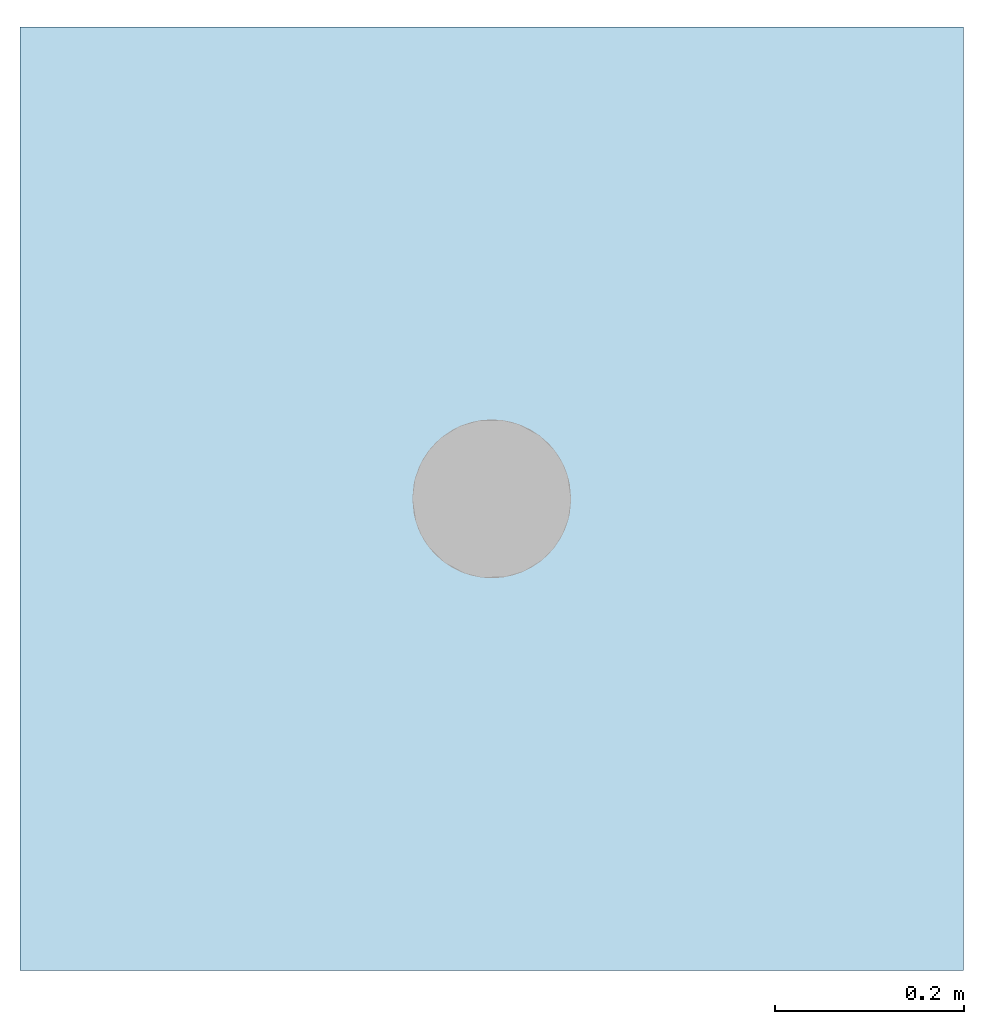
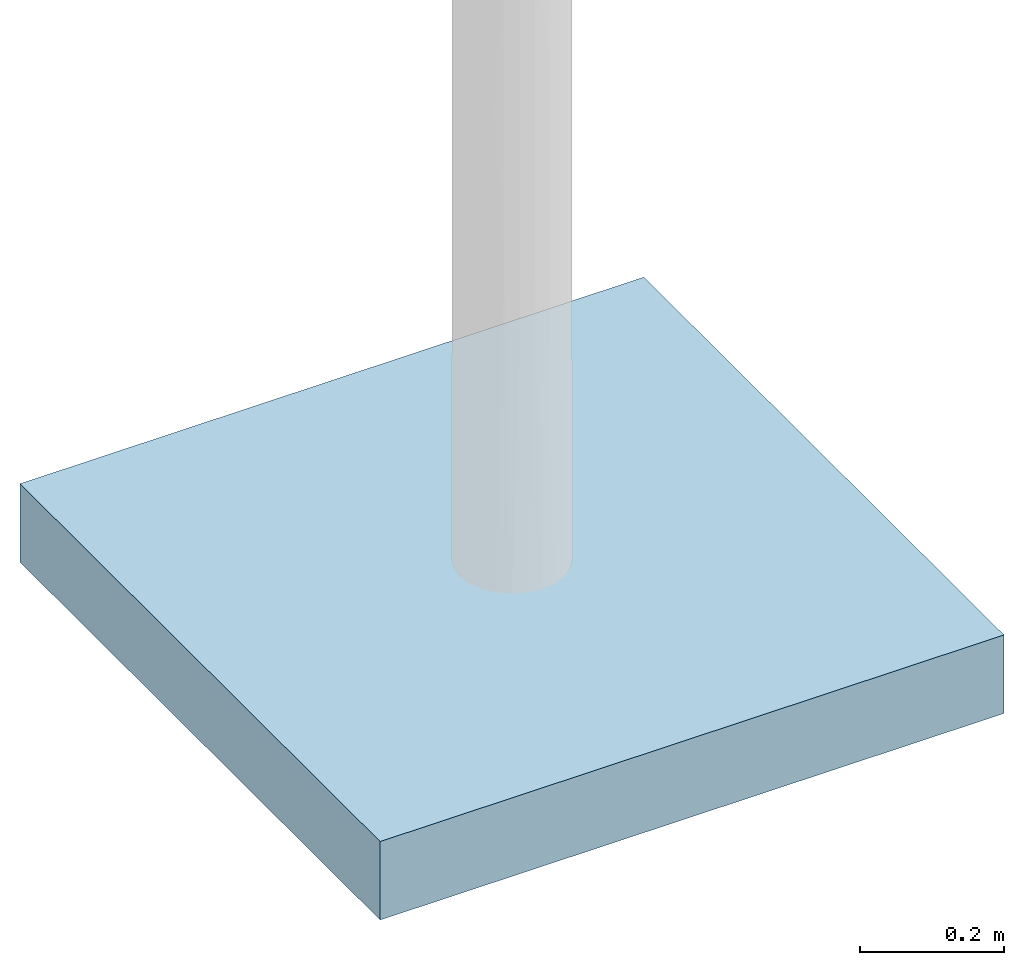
# One storey, incomplete: 1 slab.
"""IFC4 building model written with IfcOpenShell, lengths in metres."""

from ifc_helpers import new_model, entity, si_unit, converted_unit, direction, frame, frame_2d, origin, place, context, subcontext, project, spatial, rectangle, extrude, material, type_object, element, save


model = new_model("IFC4")

# Units and contexts
model_context = context("Model", 3, precision=1e-05, world=origin(), true_north=direction((6.123031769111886e-17, 1.0)))
body_context = subcontext(model_context, "Body", "Model", "MODEL_VIEW")
ifc_project = project(units=[si_unit("LENGTHUNIT", "METRE"), converted_unit("PLANEANGLEUNIT", "DEGREE", entity("IfcPlaneAngleMeasure", 0.017453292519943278), si_unit("PLANEANGLEUNIT", "RADIAN"), dimensions=[0, 0, 0, 0, 0, 0, 0]), si_unit("AREAUNIT", "SQUARE_METRE")], contexts=[model_context])

# Site, building, storey
site_placement = place(None, origin())
site = spatial("IfcSite", under=ifc_project, at=site_placement, Name="Default", CompositionType="ELEMENT")
building_placement = place(site_placement, origin())
building = spatial("IfcBuilding", under=site, at=building_placement, CompositionType="ELEMENT")
storey_placement = place(building_placement, origin())
storey = spatial("IfcBuildingStorey", under=building, at=storey_placement, Name="DB_Bezugshoehe_max_Bahnsteigkante", CompositionType="ELEMENT", Elevation=0.0)

# Slab
ifc_material = material(Name="DB_Gusseisen_RAL7036", Category="DB_Aluminium")
slab_type = type_object("IfcSlabType", Name="DB_DSA+_Fundament:DB_DSA+_Fundament", PredefinedType="BASESLAB", material=ifc_material)
slab_placement = place(storey_placement, origin())
element("IfcSlab", 1, at=slab_placement, inside=storey, type_object=slab_type, Name="DB_DSA+_Fundament:DB_DSA+_Fundament", ObjectType="DB_DSA+_Fundament:DB_DSA+_Fundament", PredefinedType="BASESLAB", context=body_context, shape_type="SweptSolid", body=[
    extrude(rectangle(XDim=1.0, YDim=0.9999999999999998, at=frame_2d((0.0, 5.551115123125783e-17), x_axis=(1.0, 0.0))), frame((0.0, 0.0, -0.433), z_axis=(0.0, 0.0, 1.0), x_axis=(-1.0, 0.0, 0.0)), (0.0, 0.0, 1.0), 0.13299999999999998),
])

save(model, "model.ifc")
